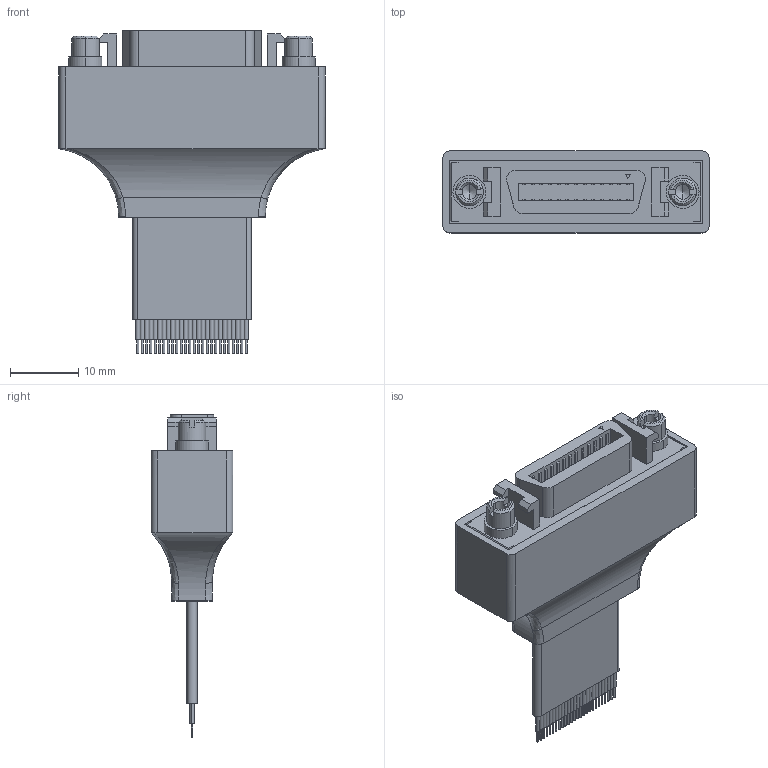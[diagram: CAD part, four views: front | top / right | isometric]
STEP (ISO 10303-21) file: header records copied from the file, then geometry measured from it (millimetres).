
FILE_DESCRIPTION (( 'STEP AP214' ), '1' );
FILE_NAME ('ICL-1.STEP', '2023-06-21T15:35:12', ( '' ), ( '' ), 'SwSTEP 2.0', 'SolidWorks 2021', '' );
FILE_SCHEMA (( 'AUTOMOTIVE_DESIGN' ));
Length unit declared in the file: millimetre
Products named in the file (5): MVC-SO; 10226-6212VC; ICL-1-Mold; ICL-1; ICL Cable_90201_26
Assembly tree (5 placements, depth 2):
  ICL-1
    ICL-1-Mold
    10226-6212VC
    MVC-SO  x2
    ICL Cable_90201_26
Bounding box: 39 x 12 x 47.33 mm (x, y, z)
Volume: 8113.3 mm3; surface area: 6331.1 mm2
Topology: 57 solids, 57 shells, 527 faces, 1169 edges, 768 vertices
Faces by surface type: plane 351, cylinder 144, cone 20, bspline 12
Entity records: 18156 total; most frequent: CARTESIAN_POINT 2900, DIRECTION 2323, ORIENTED_EDGE 2182, EDGE_CURVE 1091, AXIS2_PLACEMENT_3D 776, LINE 771, VECTOR 771, VERTEX_POINT 721
